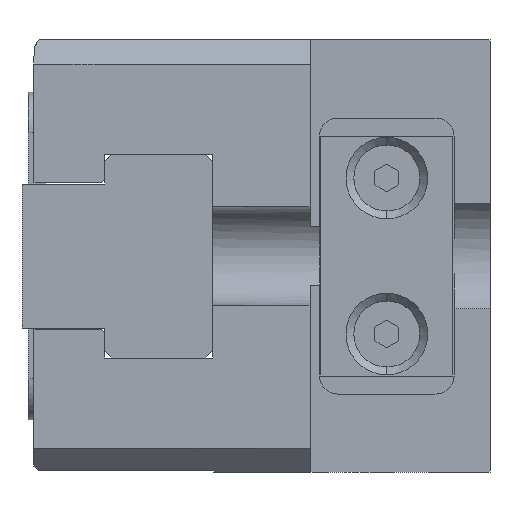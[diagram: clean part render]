
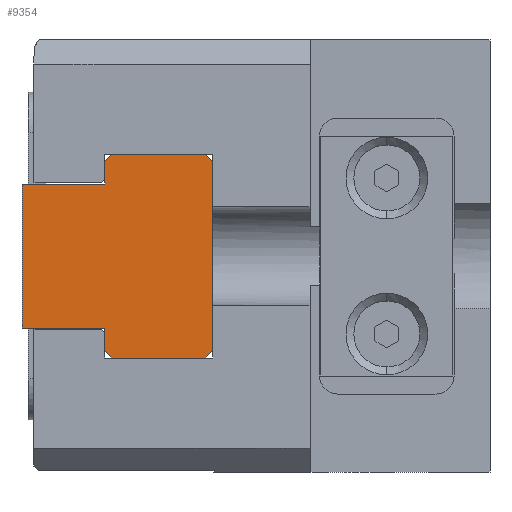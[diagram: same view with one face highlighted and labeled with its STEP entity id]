
A CAD part, left-side view. The second image highlights one B-rep face of the part: STEP entity #9354.
In plain terms, the highlighted planar face has unit normal (-1, 0, 0) as drawn and (0, 0, 1) by its records, which use the part's own axes.
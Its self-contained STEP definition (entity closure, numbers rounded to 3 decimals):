
#481 = DIRECTION ( 'NONE',  ( 1., 0., 0. ) ) ;
#956 = ORIENTED_EDGE ( 'NONE', *, *, #10593, .T. ) ;
#1100 = DIRECTION ( 'NONE',  ( 0., 1., 0. ) ) ;
#1388 = CARTESIAN_POINT ( 'NONE',  ( 7.9, 0., 30.9 ) ) ;
#1585 = VERTEX_POINT ( 'NONE', #14861 ) ;
#1866 = PLANE ( 'NONE',  #3166 ) ;
#2032 = DIRECTION ( 'NONE',  ( -0.707, -0.707, 0. ) ) ;
#2175 = EDGE_CURVE ( 'NONE', #9735, #17147, #7458, .T. ) ;
#2182 = VERTEX_POINT ( 'NONE', #7824 ) ;
#2512 = ORIENTED_EDGE ( 'NONE', *, *, #8910, .T. ) ;
#2556 = CARTESIAN_POINT ( 'NONE',  ( 6., 0., 30.9 ) ) ;
#2598 = CARTESIAN_POINT ( 'NONE',  ( -8.5, 0., 30.9 ) ) ;
#2651 = DIRECTION ( 'NONE',  ( 0., -1., 0. ) ) ;
#2663 = EDGE_CURVE ( 'NONE', #8380, #5507, #17836, .T. ) ;
#2838 = ORIENTED_EDGE ( 'NONE', *, *, #2175, .T. ) ;
#2966 = VERTEX_POINT ( 'NONE', #13533 ) ;
#3166 = AXIS2_PLACEMENT_3D ( 'NONE', #17759, #9135, #481 ) ;
#3179 = LINE ( 'NONE', #18250, #10436 ) ;
#3636 = EDGE_CURVE ( 'NONE', #9064, #11136, #5965, .T. ) ;
#3671 = VECTOR ( 'NONE', #17861, 1000. ) ;
#3723 = VECTOR ( 'NONE', #14497, 1000. ) ;
#3792 = LINE ( 'NONE', #5946, #7651 ) ;
#3922 = ORIENTED_EDGE ( 'NONE', *, *, #17990, .T. ) ;
#4012 = CARTESIAN_POINT ( 'NONE',  ( -7.9, 9., 30.9 ) ) ;
#4084 = EDGE_CURVE ( 'NONE', #11136, #9735, #6437, .T. ) ;
#4288 = ORIENTED_EDGE ( 'NONE', *, *, #4303, .T. ) ;
#4303 = EDGE_CURVE ( 'NONE', #1585, #5667, #8013, .T. ) ;
#4790 = CARTESIAN_POINT ( 'NONE',  ( 7.9, 0., 30.9 ) ) ;
#4822 = CARTESIAN_POINT ( 'NONE',  ( 8.5, 0.6, 30.9 ) ) ;
#5027 = VECTOR ( 'NONE', #8048, 1000. ) ;
#5487 = ORIENTED_EDGE ( 'NONE', *, *, #11680, .T. ) ;
#5502 = VECTOR ( 'NONE', #2651, 1000. ) ;
#5503 = VECTOR ( 'NONE', #18665, 1000. ) ;
#5507 = VERTEX_POINT ( 'NONE', #11001 ) ;
#5667 = VERTEX_POINT ( 'NONE', #4790 ) ;
#5946 = CARTESIAN_POINT ( 'NONE',  ( -8.5, 0.6, 30.9 ) ) ;
#5965 = LINE ( 'NONE', #12729, #5502 ) ;
#6000 = CARTESIAN_POINT ( 'NONE',  ( 7.9, 9., 30.9 ) ) ;
#6437 = LINE ( 'NONE', #12152, #17032 ) ;
#6585 = ORIENTED_EDGE ( 'NONE', *, *, #3636, .T. ) ;
#6639 = LINE ( 'NONE', #7778, #3671 ) ;
#6739 = VERTEX_POINT ( 'NONE', #9779 ) ;
#7181 = EDGE_CURVE ( 'NONE', #17147, #2966, #8779, .T. ) ;
#7253 = CARTESIAN_POINT ( 'NONE',  ( -7.9, 0., 30.9 ) ) ;
#7387 = ORIENTED_EDGE ( 'NONE', *, *, #7181, .T. ) ;
#7458 = LINE ( 'NONE', #12119, #11548 ) ;
#7651 = VECTOR ( 'NONE', #14561, 1000. ) ;
#7778 = CARTESIAN_POINT ( 'NONE',  ( 0., 15.9, 30.9 ) ) ;
#7824 = CARTESIAN_POINT ( 'NONE',  ( 6., 15.9, 30.9 ) ) ;
#7977 = ORIENTED_EDGE ( 'NONE', *, *, #9907, .T. ) ;
#8013 = LINE ( 'NONE', #7253, #3723 ) ;
#8048 = DIRECTION ( 'NONE',  ( 0., 1., 0. ) ) ;
#8380 = VERTEX_POINT ( 'NONE', #6000 ) ;
#8668 = DIRECTION ( 'NONE',  ( -1., 0., 0. ) ) ;
#8779 = LINE ( 'NONE', #2598, #17617 ) ;
#8910 = EDGE_CURVE ( 'NONE', #6739, #8380, #3179, .T. ) ;
#9064 = VERTEX_POINT ( 'NONE', #14529 ) ;
#9135 = DIRECTION ( 'NONE',  ( 0., 0., 1. ) ) ;
#9353 = LINE ( 'NONE', #1388, #5503 ) ;
#9354 = ADVANCED_FACE ( 'NONE', ( #10205 ), #1866, .T. ) ;
#9357 = VERTEX_POINT ( 'NONE', #4822 ) ;
#9620 = ORIENTED_EDGE ( 'NONE', *, *, #17272, .T. ) ;
#9735 = VERTEX_POINT ( 'NONE', #4012 ) ;
#9779 = CARTESIAN_POINT ( 'NONE',  ( 8.5, 8.4, 30.9 ) ) ;
#9907 = EDGE_CURVE ( 'NONE', #2182, #9064, #6639, .T. ) ;
#10205 = FACE_OUTER_BOUND ( 'NONE', #10300, .T. ) ;
#10300 = EDGE_LOOP ( 'NONE', ( #6585, #17308, #2838, #7387, #9620, #4288, #956, #3922, #2512, #17133, #5487, #7977 ) ) ;
#10436 = VECTOR ( 'NONE', #12512, 1000. ) ;
#10593 = EDGE_CURVE ( 'NONE', #5667, #9357, #9353, .T. ) ;
#10997 = LINE ( 'NONE', #2556, #11891 ) ;
#11001 = CARTESIAN_POINT ( 'NONE',  ( 6., 9., 30.9 ) ) ;
#11136 = VERTEX_POINT ( 'NONE', #11789 ) ;
#11548 = VECTOR ( 'NONE', #2032, 1000. ) ;
#11680 = EDGE_CURVE ( 'NONE', #5507, #2182, #10997, .T. ) ;
#11789 = CARTESIAN_POINT ( 'NONE',  ( -6., 9., 30.9 ) ) ;
#11891 = VECTOR ( 'NONE', #1100, 1000. ) ;
#12119 = CARTESIAN_POINT ( 'NONE',  ( -7.9, 9., 30.9 ) ) ;
#12152 = CARTESIAN_POINT ( 'NONE',  ( 0., 9., 30.9 ) ) ;
#12512 = DIRECTION ( 'NONE',  ( -0.707, 0.707, 0. ) ) ;
#12667 = DIRECTION ( 'NONE',  ( 0., -1., 0. ) ) ;
#12729 = CARTESIAN_POINT ( 'NONE',  ( -6., 0., 30.9 ) ) ;
#13102 = VECTOR ( 'NONE', #8668, 1000. ) ;
#13533 = CARTESIAN_POINT ( 'NONE',  ( -8.5, 0.6, 30.9 ) ) ;
#13615 = DIRECTION ( 'NONE',  ( -1., 0., 0. ) ) ;
#14497 = DIRECTION ( 'NONE',  ( 1., 0., 0. ) ) ;
#14529 = CARTESIAN_POINT ( 'NONE',  ( -6., 15.9, 30.9 ) ) ;
#14561 = DIRECTION ( 'NONE',  ( 0.707, -0.707, 0. ) ) ;
#14861 = CARTESIAN_POINT ( 'NONE',  ( -7.9, 0., 30.9 ) ) ;
#15355 = CARTESIAN_POINT ( 'NONE',  ( 8.5, 0., 30.9 ) ) ;
#16729 = LINE ( 'NONE', #15355, #5027 ) ;
#17032 = VECTOR ( 'NONE', #13615, 1000. ) ;
#17067 = CARTESIAN_POINT ( 'NONE',  ( -8.5, 8.4, 30.9 ) ) ;
#17133 = ORIENTED_EDGE ( 'NONE', *, *, #2663, .T. ) ;
#17147 = VERTEX_POINT ( 'NONE', #17067 ) ;
#17272 = EDGE_CURVE ( 'NONE', #2966, #1585, #3792, .T. ) ;
#17308 = ORIENTED_EDGE ( 'NONE', *, *, #4084, .T. ) ;
#17372 = CARTESIAN_POINT ( 'NONE',  ( 0., 9., 30.9 ) ) ;
#17617 = VECTOR ( 'NONE', #12667, 1000. ) ;
#17759 = CARTESIAN_POINT ( 'NONE',  ( 0., 0., 30.9 ) ) ;
#17836 = LINE ( 'NONE', #17372, #13102 ) ;
#17861 = DIRECTION ( 'NONE',  ( -1., 0., 0. ) ) ;
#17990 = EDGE_CURVE ( 'NONE', #9357, #6739, #16729, .T. ) ;
#18250 = CARTESIAN_POINT ( 'NONE',  ( 8.5, 8.4, 30.9 ) ) ;
#18665 = DIRECTION ( 'NONE',  ( 0.707, 0.707, 0. ) ) ;
